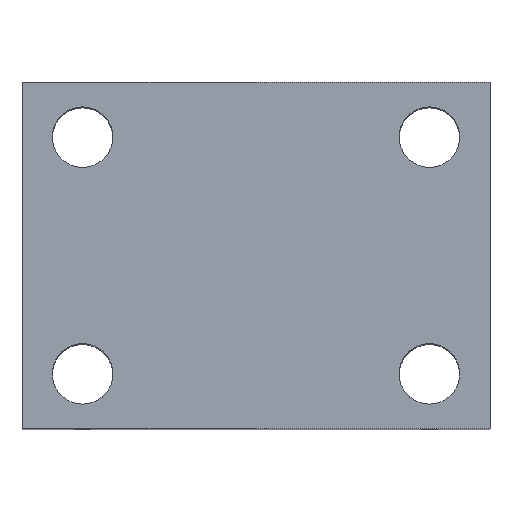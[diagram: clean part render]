
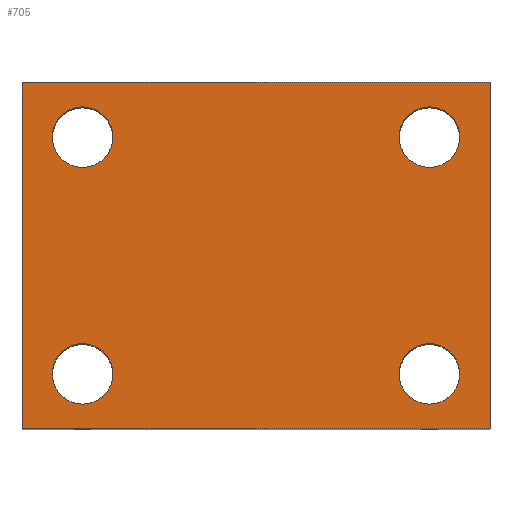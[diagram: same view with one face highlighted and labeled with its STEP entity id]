
A CAD part, top view. The second image highlights one B-rep face of the part: STEP entity #705.
In plain terms, the highlighted planar face has unit normal (0, 0, 1).
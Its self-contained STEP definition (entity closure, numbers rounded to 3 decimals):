
#127 = ORIENTED_EDGE ( 'NONE', *, *, #8557, .T. ) ;
#144 = DIRECTION ( 'NONE',  ( -1., 0., 0. ) ) ;
#195 = CARTESIAN_POINT ( 'NONE',  ( 31.5, 10., 47.5 ) ) ;
#202 = AXIS2_PLACEMENT_3D ( 'NONE', #17245, #9154, #828 ) ;
#216 = CARTESIAN_POINT ( 'NONE',  ( 26., 10., 47.5 ) ) ;
#273 = VERTEX_POINT ( 'NONE', #17524 ) ;
#414 = LINE ( 'NONE', #7439, #15482 ) ;
#638 = VERTEX_POINT ( 'NONE', #11804 ) ;
#705 = ADVANCED_FACE ( 'NONE', ( #15533, #5722, #1894, #11924, #8802 ), #11396, .F. ) ;
#828 = DIRECTION ( 'NONE',  ( -1., 0., 0. ) ) ;
#1380 = EDGE_CURVE ( 'NONE', #638, #4043, #14038, .T. ) ;
#1690 = VERTEX_POINT ( 'NONE', #8710 ) ;
#1702 = EDGE_CURVE ( 'NONE', #6073, #12784, #8388, .T. ) ;
#1739 = DIRECTION ( 'NONE',  ( -1., 0., 0. ) ) ;
#1887 = CARTESIAN_POINT ( 'NONE',  ( -26., 53., 47.5 ) ) ;
#1894 = FACE_BOUND ( 'NONE', #13698, .T. ) ;
#1923 = ORIENTED_EDGE ( 'NONE', *, *, #9418, .T. ) ;
#1942 = VERTEX_POINT ( 'NONE', #1887 ) ;
#1957 = VERTEX_POINT ( 'NONE', #2547 ) ;
#2439 = EDGE_LOOP ( 'NONE', ( #4687, #12916, #17887, #14128 ) ) ;
#2466 = VERTEX_POINT ( 'NONE', #216 ) ;
#2547 = CARTESIAN_POINT ( 'NONE',  ( -37., 53., 47.5 ) ) ;
#2780 = ORIENTED_EDGE ( 'NONE', *, *, #5913, .T. ) ;
#3044 = DIRECTION ( 'NONE',  ( 0., 0., -1. ) ) ;
#3177 = CARTESIAN_POINT ( 'NONE',  ( 42.5, 63., 47.5 ) ) ;
#4043 = VERTEX_POINT ( 'NONE', #4786 ) ;
#4057 = EDGE_CURVE ( 'NONE', #6202, #273, #4390, .T. ) ;
#4390 = LINE ( 'NONE', #3177, #4841 ) ;
#4435 = CARTESIAN_POINT ( 'NONE',  ( -31.5, 53., 47.5 ) ) ;
#4578 = CARTESIAN_POINT ( 'NONE',  ( -42.5, 63., 47.5 ) ) ;
#4687 = ORIENTED_EDGE ( 'NONE', *, *, #5019, .T. ) ;
#4754 = ORIENTED_EDGE ( 'NONE', *, *, #15117, .T. ) ;
#4786 = CARTESIAN_POINT ( 'NONE',  ( 26., 53., 47.5 ) ) ;
#4841 = VECTOR ( 'NONE', #15474, 1000. ) ;
#5019 = EDGE_CURVE ( 'NONE', #12784, #273, #414, .T. ) ;
#5271 = EDGE_CURVE ( 'NONE', #6073, #6202, #5880, .T. ) ;
#5286 = VECTOR ( 'NONE', #7412, 1000. ) ;
#5636 = AXIS2_PLACEMENT_3D ( 'NONE', #11130, #3044, #12511 ) ;
#5722 = FACE_BOUND ( 'NONE', #8248, .T. ) ;
#5824 = DIRECTION ( 'NONE',  ( -1., 0., 0. ) ) ;
#5880 = LINE ( 'NONE', #15940, #12946 ) ;
#5897 = ORIENTED_EDGE ( 'NONE', *, *, #1380, .T. ) ;
#5913 = EDGE_CURVE ( 'NONE', #4043, #638, #7537, .T. ) ;
#6073 = VERTEX_POINT ( 'NONE', #13172 ) ;
#6093 = AXIS2_PLACEMENT_3D ( 'NONE', #16627, #8599, #144 ) ;
#6202 = VERTEX_POINT ( 'NONE', #10734 ) ;
#6757 = CARTESIAN_POINT ( 'NONE',  ( 31.5, 53., 47.5 ) ) ;
#7089 = EDGE_CURVE ( 'NONE', #1690, #2466, #16474, .T. ) ;
#7412 = DIRECTION ( 'NONE',  ( 0., -1., 0. ) ) ;
#7428 = DIRECTION ( 'NONE',  ( 0., 0., -1. ) ) ;
#7439 = CARTESIAN_POINT ( 'NONE',  ( -42.5, 0., 47.5 ) ) ;
#7537 = CIRCLE ( 'NONE', #7950, 5.5 ) ;
#7625 = ORIENTED_EDGE ( 'NONE', *, *, #15752, .T. ) ;
#7950 = AXIS2_PLACEMENT_3D ( 'NONE', #6757, #16078, #8076 ) ;
#8076 = DIRECTION ( 'NONE',  ( -1., 0., 0. ) ) ;
#8123 = VERTEX_POINT ( 'NONE', #14224 ) ;
#8248 = EDGE_LOOP ( 'NONE', ( #1923, #17800 ) ) ;
#8257 = CARTESIAN_POINT ( 'NONE',  ( -42.5, 0., 47.5 ) ) ;
#8388 = LINE ( 'NONE', #4578, #5286 ) ;
#8557 = EDGE_CURVE ( 'NONE', #2466, #1690, #9505, .T. ) ;
#8599 = DIRECTION ( 'NONE',  ( 0., 0., -1. ) ) ;
#8710 = CARTESIAN_POINT ( 'NONE',  ( 37., 10., 47.5 ) ) ;
#8802 = FACE_OUTER_BOUND ( 'NONE', #2439, .T. ) ;
#9154 = DIRECTION ( 'NONE',  ( 0., 0., -1. ) ) ;
#9418 = EDGE_CURVE ( 'NONE', #14852, #8123, #15819, .T. ) ;
#9505 = CIRCLE ( 'NONE', #14325, 5.5 ) ;
#9705 = CIRCLE ( 'NONE', #14477, 5.5 ) ;
#9943 = DIRECTION ( 'NONE',  ( 0., 0., -1. ) ) ;
#10297 = EDGE_LOOP ( 'NONE', ( #2780, #5897 ) ) ;
#10734 = CARTESIAN_POINT ( 'NONE',  ( 42.5, 63., 47.5 ) ) ;
#10737 = EDGE_LOOP ( 'NONE', ( #7625, #4754 ) ) ;
#11130 = CARTESIAN_POINT ( 'NONE',  ( -31.5, 10., 47.5 ) ) ;
#11178 = CIRCLE ( 'NONE', #15728, 5.5 ) ;
#11352 = DIRECTION ( 'NONE',  ( -1., 0., 0. ) ) ;
#11355 = DIRECTION ( 'NONE',  ( 0., 0., -1. ) ) ;
#11396 = PLANE ( 'NONE',  #12128 ) ;
#11402 = CARTESIAN_POINT ( 'NONE',  ( -42.5, 63., 47.5 ) ) ;
#11484 = EDGE_CURVE ( 'NONE', #8123, #14852, #17275, .T. ) ;
#11804 = CARTESIAN_POINT ( 'NONE',  ( 37., 53., 47.5 ) ) ;
#11924 = FACE_BOUND ( 'NONE', #10297, .T. ) ;
#12128 = AXIS2_PLACEMENT_3D ( 'NONE', #11402, #11355, #11352 ) ;
#12511 = DIRECTION ( 'NONE',  ( -1., 0., 0. ) ) ;
#12598 = DIRECTION ( 'NONE',  ( -1., 0., 0. ) ) ;
#12620 = DIRECTION ( 'NONE',  ( 0., 0., -1. ) ) ;
#12697 = AXIS2_PLACEMENT_3D ( 'NONE', #12802, #12620, #12598 ) ;
#12784 = VERTEX_POINT ( 'NONE', #8257 ) ;
#12802 = CARTESIAN_POINT ( 'NONE',  ( 31.5, 53., 47.5 ) ) ;
#12916 = ORIENTED_EDGE ( 'NONE', *, *, #4057, .F. ) ;
#12946 = VECTOR ( 'NONE', #13355, 1000. ) ;
#13172 = CARTESIAN_POINT ( 'NONE',  ( -42.5, 63., 47.5 ) ) ;
#13355 = DIRECTION ( 'NONE',  ( 1., 0., 0. ) ) ;
#13698 = EDGE_LOOP ( 'NONE', ( #127, #16633 ) ) ;
#13783 = DIRECTION ( 'NONE',  ( 0., 0., -1. ) ) ;
#14038 = CIRCLE ( 'NONE', #12697, 5.5 ) ;
#14070 = DIRECTION ( 'NONE',  ( 1., 0., 0. ) ) ;
#14128 = ORIENTED_EDGE ( 'NONE', *, *, #1702, .T. ) ;
#14224 = CARTESIAN_POINT ( 'NONE',  ( -26., 10., 47.5 ) ) ;
#14325 = AXIS2_PLACEMENT_3D ( 'NONE', #195, #9943, #1739 ) ;
#14477 = AXIS2_PLACEMENT_3D ( 'NONE', #15417, #7428, #16771 ) ;
#14852 = VERTEX_POINT ( 'NONE', #17180 ) ;
#15117 = EDGE_CURVE ( 'NONE', #1942, #1957, #11178, .T. ) ;
#15417 = CARTESIAN_POINT ( 'NONE',  ( -31.5, 53., 47.5 ) ) ;
#15474 = DIRECTION ( 'NONE',  ( 0., -1., 0. ) ) ;
#15482 = VECTOR ( 'NONE', #14070, 1000. ) ;
#15533 = FACE_BOUND ( 'NONE', #10737, .T. ) ;
#15728 = AXIS2_PLACEMENT_3D ( 'NONE', #4435, #13783, #5824 ) ;
#15752 = EDGE_CURVE ( 'NONE', #1957, #1942, #9705, .T. ) ;
#15819 = CIRCLE ( 'NONE', #5636, 5.5 ) ;
#15940 = CARTESIAN_POINT ( 'NONE',  ( -42.5, 63., 47.5 ) ) ;
#16078 = DIRECTION ( 'NONE',  ( 0., 0., -1. ) ) ;
#16474 = CIRCLE ( 'NONE', #202, 5.5 ) ;
#16627 = CARTESIAN_POINT ( 'NONE',  ( -31.5, 10., 47.5 ) ) ;
#16633 = ORIENTED_EDGE ( 'NONE', *, *, #7089, .T. ) ;
#16771 = DIRECTION ( 'NONE',  ( -1., 0., 0. ) ) ;
#17180 = CARTESIAN_POINT ( 'NONE',  ( -37., 10., 47.5 ) ) ;
#17245 = CARTESIAN_POINT ( 'NONE',  ( 31.5, 10., 47.5 ) ) ;
#17275 = CIRCLE ( 'NONE', #6093, 5.5 ) ;
#17524 = CARTESIAN_POINT ( 'NONE',  ( 42.5, 0., 47.5 ) ) ;
#17800 = ORIENTED_EDGE ( 'NONE', *, *, #11484, .T. ) ;
#17887 = ORIENTED_EDGE ( 'NONE', *, *, #5271, .F. ) ;
